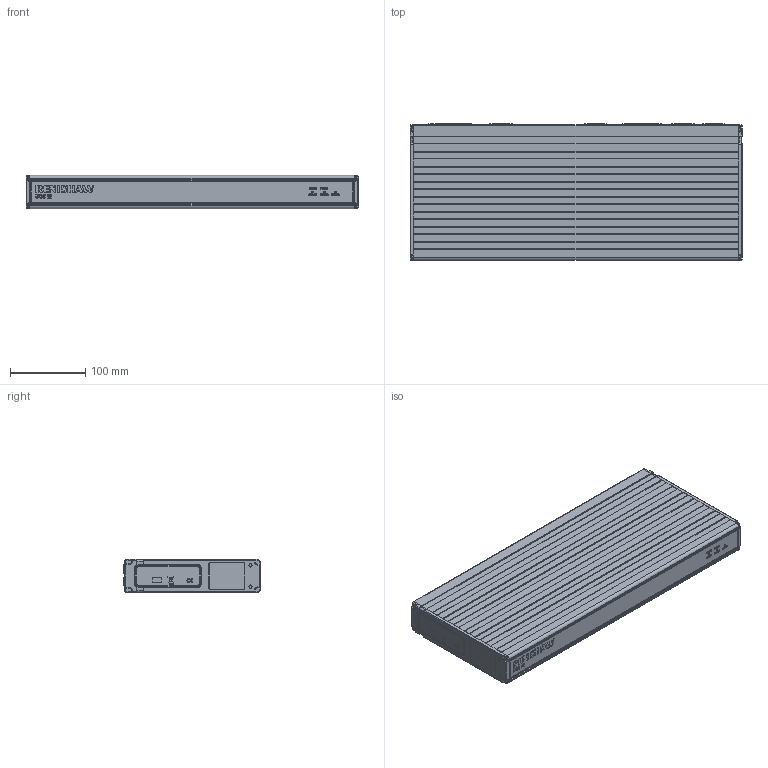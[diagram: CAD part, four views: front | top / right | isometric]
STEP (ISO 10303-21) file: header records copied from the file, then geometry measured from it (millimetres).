
FILE_DESCRIPTION(/* description */ (''),/* implementation_level */ '2;1');
FILE_NAME(/* name */ 'LA-6251-0200-A_UCC BI CONTROLLER.stp',/* time_stamp */ '2021-08-11T12:58:04+01:00',/* author */ (''),/* organization */ (''),/* preprocessor_version */ 'ST-DEVELOPER v16.7',/* originating_system */ 'SIEMENS PLM Software NX 1946',/* authorisation */ '');
FILE_SCHEMA (('AUTOMOTIVE_DESIGN { 1 0 10303 214 3 1 1 1 }'));
Products named in the file (1): mg1427D0287Ao72r
Bounding box: 440 x 181.1 x 44.09 mm (x, y, z)
Volume: 3394619.6 mm3; surface area: 220975.7 mm2
Topology: 1 solids, 1 shells, 966 faces, 6335 edges, 5606 vertices
Faces by surface type: plane 623, cylinder 257, bspline 34, torus 28, sphere 24
Full cylindrical faces by diameter (mm): 9 x1
Entity records: 80951 total; most frequent: CARTESIAN_POINT 30636, ORIENTED_EDGE 12620, EDGE_CURVE 6310, VERTEX_POINT 5606, DIRECTION 4921, B_SPLINE_CURVE_WITH_KNOTS 3883, LINE 1799, VECTOR 1799
